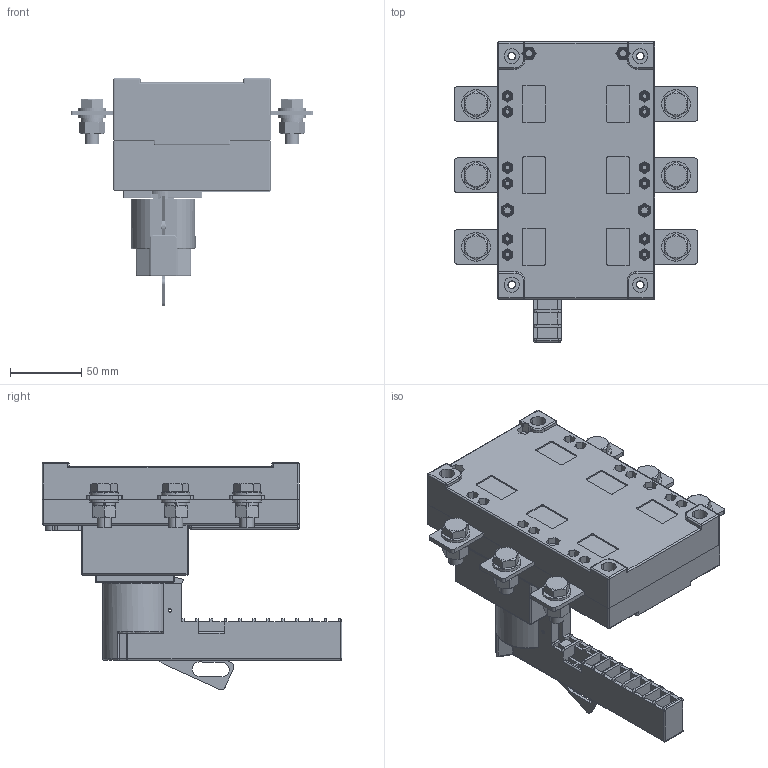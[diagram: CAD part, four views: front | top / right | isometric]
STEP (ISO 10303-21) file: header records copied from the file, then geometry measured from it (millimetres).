
FILE_DESCRIPTION((''),'2;1');
FILE_NAME('2TZD_504_1004_ASM','2022-03-14T',('panxiangxiang'),(''),'PRO/ENGINEER BY PARAMETRIC TECHNOLOGY CORPORATION, 2017170','PRO/ENGINEER BY PARAMETRIC TECHNOLOGY CORPORATION, 2017170','');
FILE_SCHEMA(('CONFIG_CONTROL_DESIGN'));
Products named in the file (34): 8TZD_022_1017; 8TZD_557_1058; 0GB-T5783-010; 2GB6172-2-002; 5TZD_022_1015_ASM; 8TZD_235_1016; 8TZD_557_1056; 8TZD_557_1057; 8TZD_285_1010; 5TZD_558_1064_ASM; 8TZD_060_1003; 8TZD_268_1006; 8TZD_288_1066; 8TZD_201_1017; 8TZD_005_1018; 8TZD_235_1017; 3GB71-002; GB9074_4-M4X16; 5TZD_005_1005_ASM; GB818-M5X30; 2GB-T6172-1-002; 8TZD_860_1061; 6TZD_250_1007_ASM; GB-T97_1-10; GB-T93-10; 0GB-T5783-005; 2GB-T6170-003; 8TZD_100_1057; 8TZD_253_1083; 8TZD_140_1008; 6GB-879-2-002; 5TZD_253_1017_ASM; 3GB845-011; 2TZD_504_1004_ASM
Assembly tree (103 placements, depth 4):
  2TZD_504_1004_ASM
    6TZD_250_1007_ASM
      5TZD_022_1015_ASM
        8TZD_022_1017
        8TZD_557_1058  x6
        0GB-T5783-010  x12
        2GB6172-2-002  x12
      5TZD_558_1064_ASM
        8TZD_235_1016
        8TZD_557_1056  x3
        8TZD_557_1057  x3
        8TZD_285_1010  x6
      5TZD_005_1005_ASM
        8TZD_060_1003
        8TZD_268_1006
        8TZD_288_1066
        8TZD_201_1017
        8TZD_005_1018
        8TZD_235_1017
        3GB71-002
        GB9074_4-M4X16  x3
      GB818-M5X30  x4
      2GB-T6172-1-002  x4
      8TZD_860_1061
    GB-T97_1-10  x12
    GB-T93-10  x6
    0GB-T5783-005  x6
    2GB-T6170-003  x6
    8TZD_100_1057
    5TZD_253_1017_ASM
      8TZD_253_1083
      8TZD_140_1008
      6GB-879-2-002
    3GB845-011
Bounding box: 170 x 210 x 159.39 mm (x, y, z)
Volume: 730041 mm3; surface area: 374444.3 mm2
Topology: 148 solids, 188 shells, 7635 faces, 20587 edges, 13438 vertices
Faces by surface type: plane 5897, cylinder 966, cone 573, torus 140, sphere 53, bspline 6
Entity records: 188465 total; most frequent: CARTESIAN_POINT 36425, ORIENTED_EDGE 32376, DIRECTION 29360, EDGE_CURVE 16208, VECTOR 14568, LINE 14568, VERTEX_POINT 10703, AXIS2_PLACEMENT_3D 7396
